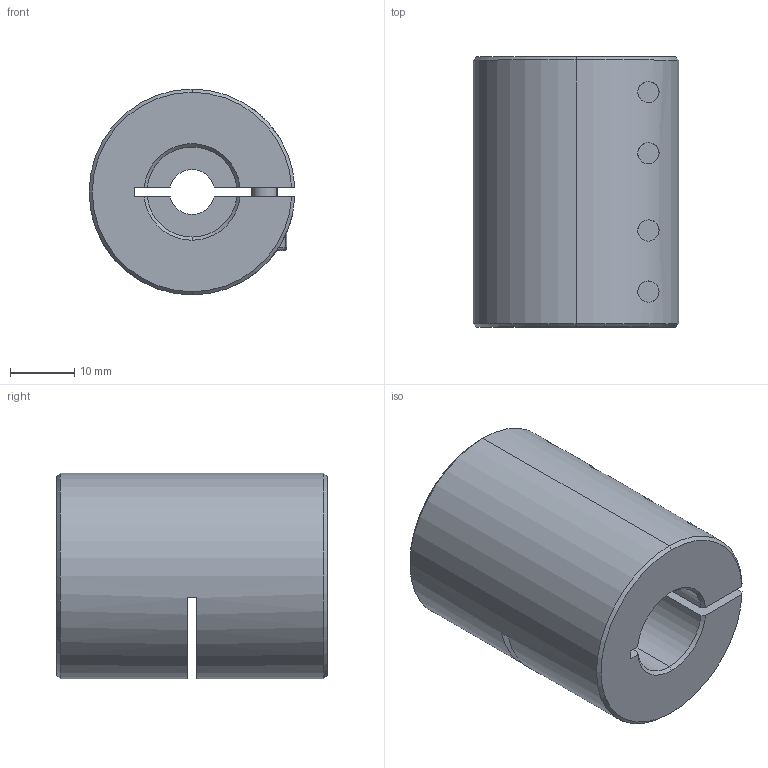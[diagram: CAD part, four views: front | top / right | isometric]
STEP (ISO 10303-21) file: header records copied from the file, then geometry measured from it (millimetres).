
FILE_DESCRIPTION (( 'STEP AP203' ), '1' );
FILE_NAME ('LL-B-D32L42-7-14.STEP', '2021-11-05T07:42:03', ( '' ), ( '' ), 'SwSTEP 2.0', 'SolidWorks 2018', '' );
FILE_SCHEMA (( 'CONFIG_CONTROL_DESIGN' ));
Length unit declared in the file: millimetre
Products named in the file (1): LL-B-D32L42-7-14
Bounding box: 31.98 x 42 x 32 mm (x, y, z)
Volume: 27279.9 mm3; surface area: 10337.4 mm2
Topology: 1 solids, 1 shells, 193 faces, 492 edges, 309 vertices
Faces by surface type: plane 88, cylinder 77, cone 20, torus 8
Entity records: 6376 total; most frequent: CARTESIAN_POINT 1559, DIRECTION 1037, ORIENTED_EDGE 968, EDGE_CURVE 484, AXIS2_PLACEMENT_3D 403, VERTEX_POINT 309, LINE 231, VECTOR 231
